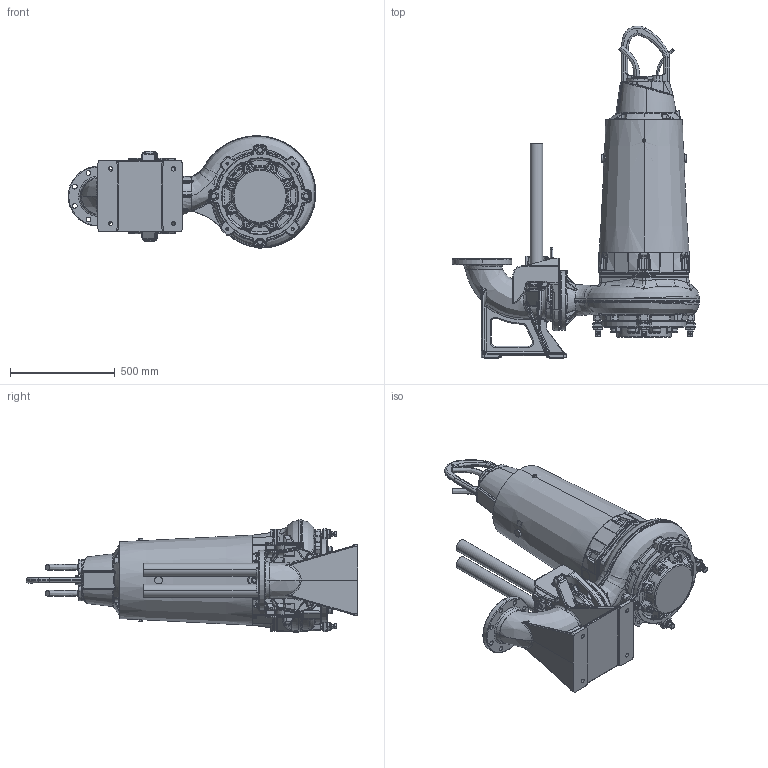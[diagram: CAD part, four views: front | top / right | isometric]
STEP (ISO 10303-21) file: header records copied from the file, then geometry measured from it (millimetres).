
FILE_DESCRIPTION (( 'STEP AP214' ), '1' );
FILE_NAME ('PE4_XFP155J-CB2_WET 2guide_A_NG2.STEP', '2017-01-23T12:54:51', ( '' ), ( '' ), 'SwSTEP 2.0', 'SolidWorks 2017', '' );
FILE_SCHEMA (( 'AUTOMOTIVE_DESIGN' ));
Length unit declared in the file: millimetre
Products named in the file (1): PE4_XFP155J-CB2_WET 2guide_A_NG2
Bounding box: 1180.59 x 1582.17 x 536.4 mm (x, y, z)
Volume: 182945258.6 mm3; surface area: 4218725.3 mm2
Topology: 4 solids, 22 shells, 4308 faces, 10675 edges, 6282 vertices
Faces by surface type: bspline 1340, plane 1009, cylinder 995, cone 436, torus 395, sphere 133
Entity records: 277198 total; most frequent: CARTESIAN_POINT 138953, ORIENTED_EDGE 20972, DIRECTION 16655, EDGE_CURVE 10486, AXIS2_PLACEMENT_3D 6780, VERTEX_POINT 6276, EDGE_LOOP 4488, UNCERTAINTY_MEASURE_WITH_UNIT 4314
